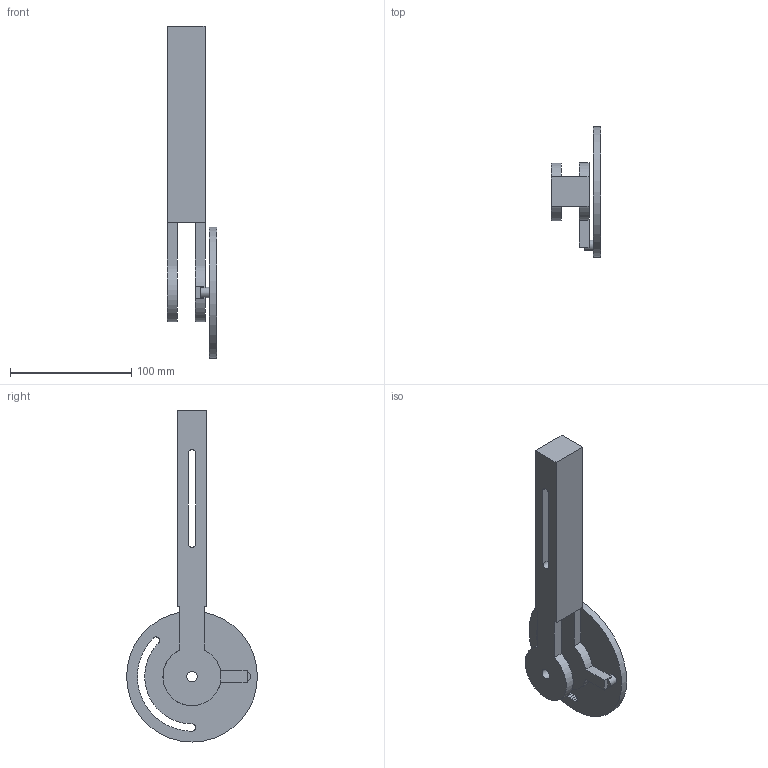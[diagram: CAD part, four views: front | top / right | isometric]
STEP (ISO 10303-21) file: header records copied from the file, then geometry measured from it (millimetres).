
FILE_DESCRIPTION(('Open CASCADE Model'),'2;1');
FILE_NAME('Open CASCADE Shape Model','2026-09-19T23:42:05',('Author'),( 'Open CASCADE'),'Open CASCADE STEP processor 7.9','Open CASCADE 7.9' ,'Unknown');
FILE_SCHEMA(('AUTOMOTIVE_DESIGN { 1 0 10303 214 1 1 1 1 }'));
Length unit declared in the file: millimetre
Products named in the file (1): Open CASCADE STEP translator 7.9 1
Bounding box: 40.5 x 108 x 274 mm (x, y, z)
Volume: 189870.2 mm3; surface area: 56297.5 mm2
Topology: 1 solids, 1 shells, 122 faces, 357 edges, 238 vertices
Faces by surface type: plane 110, cylinder 12
Full cylindrical faces by diameter (mm): 8.6 x1, 8.7 x2, 38 x1, 108 x1
Entity records: 8264 total; most frequent: CARTESIAN_POINT 1844, DIRECTION 941, ORIENTED_EDGE 714, PCURVE 714, DEFINITIONAL_REPRESENTATION 714, LINE 619, VECTOR 619, B_SPLINE_CURVE_WITH_KNOTS 400
